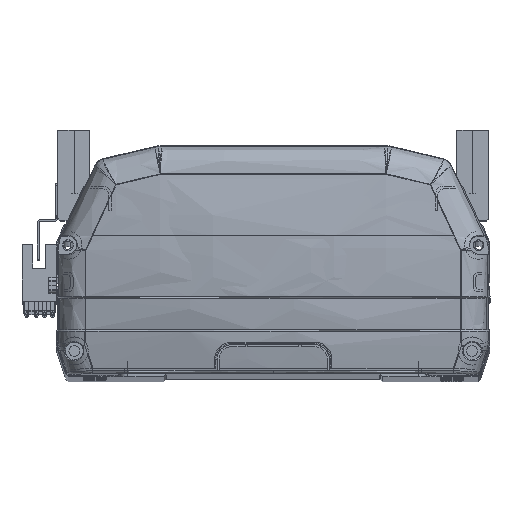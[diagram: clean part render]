
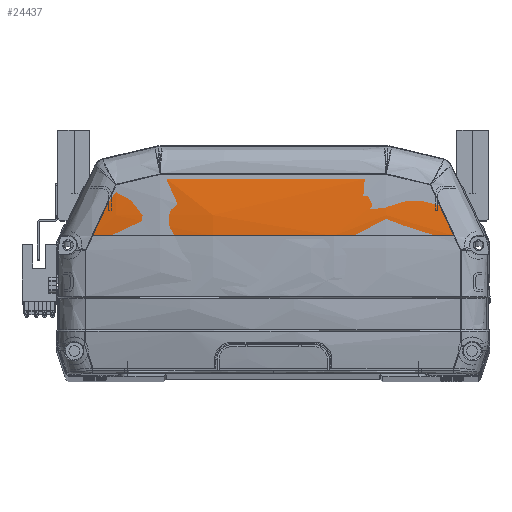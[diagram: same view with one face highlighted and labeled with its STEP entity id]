
A CAD part, top view. The second image highlights one B-rep face of the part: STEP entity #24437.
In plain terms, the highlighted toroidal (fillet/blend) face has major radius 312.5 mm and minor radius 572.4 mm.
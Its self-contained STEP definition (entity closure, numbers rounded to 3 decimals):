
#1024 = CARTESIAN_POINT ( 'NONE',  ( -14.788, 79.361, -1.235 ) ) ;
#1584 = CARTESIAN_POINT ( 'NONE',  ( -61.718, 75.278, -4.232 ) ) ;
#2179 = CARTESIAN_POINT ( 'NONE',  ( -61.718, 75.278, -4.232 ) ) ;
#3672 = ORIENTED_EDGE ( 'NONE', *, *, #6290, .T. ) ;
#4916 = CARTESIAN_POINT ( 'NONE',  ( 55.929, 76.66, -3.711 ) ) ;
#5148 = VERTEX_POINT ( 'NONE', #28984 ) ;
#6290 = EDGE_CURVE ( 'NONE', #5148, #32973, #8016, .T. ) ;
#7096 = CARTESIAN_POINT ( 'NONE',  ( 0., 55.096, -572.5 ) ) ;
#7358 = CARTESIAN_POINT ( 'NONE',  ( -29.579, 79.39, -1.814 ) ) ;
#7360 = DIRECTION ( 'NONE',  ( 0., 0., 1. ) ) ;
#7900 = CARTESIAN_POINT ( 'NONE',  ( -50.132, 78.049, -3.29 ) ) ;
#8016 = CIRCLE ( 'NONE', #19672, 572.4 ) ;
#8034 = CARTESIAN_POINT ( 'NONE',  ( 61.718, 75.278, -4.232 ) ) ;
#8082 = CARTESIAN_POINT ( 'NONE',  ( -67.917, 61.816, -4.208 ) ) ;
#8118 = CARTESIAN_POINT ( 'NONE',  ( 50.132, 78.049, -3.29 ) ) ;
#8635 = CARTESIAN_POINT ( 'NONE',  ( -64.813, 68.545, -4.11 ) ) ;
#10156 = CARTESIAN_POINT ( 'NONE',  ( 44.331, 79.443, -2.97 ) ) ;
#10204 = B_SPLINE_CURVE_WITH_KNOTS ( 'NONE', 3,
 ( #1584, #30152, #7900, #23821 ),
 .UNSPECIFIED., .F., .F.,
 ( 4, 4 ),
 ( 0., 0.018 ),
 .UNSPECIFIED. ) ;
#11304 = CARTESIAN_POINT ( 'NONE',  ( 67.917, 61.809, -4.135 ) ) ;
#13212 = EDGE_CURVE ( 'NONE', #5148, #17363, #27338, .T. ) ;
#14154 = CARTESIAN_POINT ( 'NONE',  ( 44.331, 79.443, -2.97 ) ) ;
#14286 = CARTESIAN_POINT ( 'NONE',  ( 44.331, 79.443, -2.97 ) ) ;
#14974 = TOROIDAL_SURFACE ( 'NONE', #27021, -312.5, 572.4 ) ;
#16341 = VERTEX_POINT ( 'NONE', #8034 ) ;
#16730 = CARTESIAN_POINT ( 'NONE',  ( 14.805, 79.361, -1.235 ) ) ;
#16732 = DIRECTION ( 'NONE',  ( 0., 1., 0. ) ) ;
#17363 = VERTEX_POINT ( 'NONE', #35687 ) ;
#17740 = CARTESIAN_POINT ( 'NONE',  ( 71.027, 55.096, -4.524 ) ) ;
#17999 = ORIENTED_EDGE ( 'NONE', *, *, #25371, .F. ) ;
#18685 = DIRECTION ( 'NONE',  ( 1., 0., 0. ) ) ;
#19672 = AXIS2_PLACEMENT_3D ( 'NONE', #7096, #16732, #7360 ) ;
#20700 = EDGE_LOOP ( 'NONE', ( #30477, #3672, #40697, #21750, #40036, #17999 ) ) ;
#21075 = CARTESIAN_POINT ( 'NONE',  ( 64.811, 68.545, -4.037 ) ) ;
#21419 = CARTESIAN_POINT ( 'NONE',  ( 71.027, 55.096, -4.524 ) ) ;
#21750 = ORIENTED_EDGE ( 'NONE', *, *, #31246, .F. ) ;
#23459 = FACE_OUTER_BOUND ( 'NONE', #20700, .T. ) ;
#23821 = CARTESIAN_POINT ( 'NONE',  ( -44.331, 79.443, -2.97 ) ) ;
#24147 = CARTESIAN_POINT ( 'NONE',  ( -69.472, 58.454, -4.329 ) ) ;
#24437 = ADVANCED_FACE ( 'NONE', ( #23459 ), #14974, .T. ) ;
#25371 = EDGE_CURVE ( 'NONE', #17363, #32770, #10204, .T. ) ;
#25798 = DIRECTION ( 'NONE',  ( 0., 0., -1. ) ) ;
#25980 = B_SPLINE_CURVE_WITH_KNOTS ( 'NONE', 3,
 ( #35867, #7358, #1024, #16730, #36140, #10156 ),
 .UNSPECIFIED., .F., .F.,
 ( 4, 2, 4 ),
 ( 0., 0.044, 0.089 ),
 .UNSPECIFIED. ) ;
#27021 = AXIS2_PLACEMENT_3D ( 'NONE', #31398, #18685, #25798 ) ;
#27253 = EDGE_CURVE ( 'NONE', #32770, #41049, #25980, .T. ) ;
#27338 = B_SPLINE_CURVE_WITH_KNOTS ( 'NONE', 3,
 ( #36999, #24147, #8082, #8635, #34214, #2179 ),
 .UNSPECIFIED., .F., .F.,
 ( 4, 2, 4 ),
 ( 0.006, 0.017, 0.029 ),
 .UNSPECIFIED. ) ;
#28984 = CARTESIAN_POINT ( 'NONE',  ( -71.027, 55.096, -4.524 ) ) ;
#30152 = CARTESIAN_POINT ( 'NONE',  ( -55.929, 76.661, -3.711 ) ) ;
#30477 = ORIENTED_EDGE ( 'NONE', *, *, #13212, .F. ) ;
#31246 = EDGE_CURVE ( 'NONE', #41049, #16341, #36492, .T. ) ;
#31398 = CARTESIAN_POINT ( 'NONE',  ( 0., 55.096, -260. ) ) ;
#32770 = VERTEX_POINT ( 'NONE', #37936 ) ;
#32973 = VERTEX_POINT ( 'NONE', #21419 ) ;
#34096 = B_SPLINE_CURVE_WITH_KNOTS ( 'NONE', 3,
 ( #39811, #21075, #11304, #17740 ),
 .UNSPECIFIED., .F., .F.,
 ( 4, 4 ),
 ( 0., 0.022 ),
 .UNSPECIFIED. ) ;
#34214 = CARTESIAN_POINT ( 'NONE',  ( -63.264, 71.911, -4.135 ) ) ;
#34471 = EDGE_CURVE ( 'NONE', #16341, #32973, #34096, .T. ) ;
#35687 = CARTESIAN_POINT ( 'NONE',  ( -61.718, 75.278, -4.232 ) ) ;
#35867 = CARTESIAN_POINT ( 'NONE',  ( -44.331, 79.443, -2.97 ) ) ;
#36140 = CARTESIAN_POINT ( 'NONE',  ( 29.579, 79.389, -1.814 ) ) ;
#36492 = B_SPLINE_CURVE_WITH_KNOTS ( 'NONE', 3,
 ( #14286, #8118, #4916, #39553 ),
 .UNSPECIFIED., .F., .F.,
 ( 4, 4 ),
 ( 0., 0.018 ),
 .UNSPECIFIED. ) ;
#36999 = CARTESIAN_POINT ( 'NONE',  ( -71.027, 55.096, -4.524 ) ) ;
#37936 = CARTESIAN_POINT ( 'NONE',  ( -44.331, 79.443, -2.97 ) ) ;
#39553 = CARTESIAN_POINT ( 'NONE',  ( 61.718, 75.278, -4.232 ) ) ;
#39811 = CARTESIAN_POINT ( 'NONE',  ( 61.718, 75.278, -4.232 ) ) ;
#40036 = ORIENTED_EDGE ( 'NONE', *, *, #27253, .F. ) ;
#40697 = ORIENTED_EDGE ( 'NONE', *, *, #34471, .F. ) ;
#41049 = VERTEX_POINT ( 'NONE', #14154 ) ;
